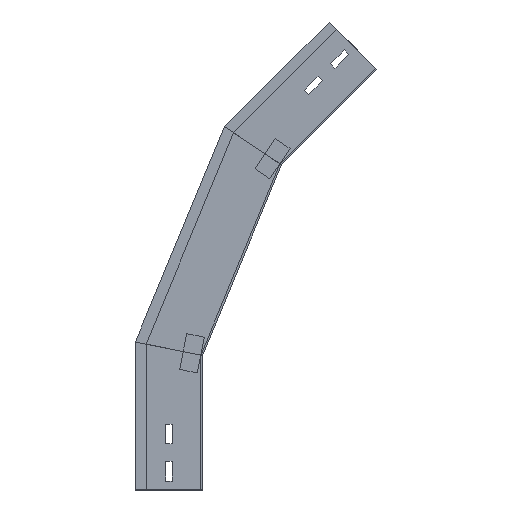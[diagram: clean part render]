
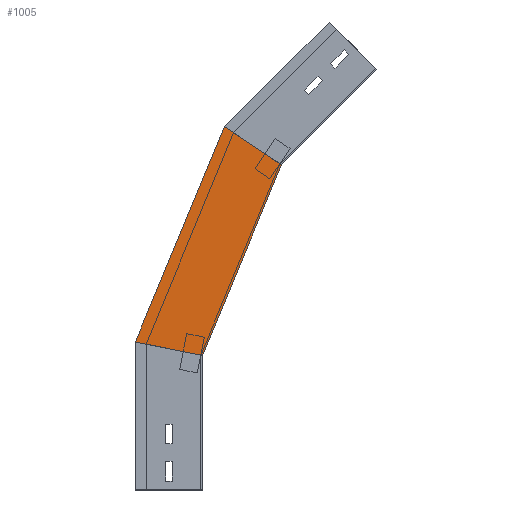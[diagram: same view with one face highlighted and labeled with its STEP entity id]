
A CAD part, left-side view. The second image highlights one B-rep face of the part: STEP entity #1005.
In plain terms, the highlighted planar face has unit normal (-1, 0, 0) as drawn and (1, 0, 0) by its records, which use the part's own axes.
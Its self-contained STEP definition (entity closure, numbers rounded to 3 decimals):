
#16 = LINE ( 'NONE', #579, #594 ) ;
#79 = DIRECTION ( 'NONE',  ( 0., -0.831, -0.556 ) ) ;
#100 = VERTEX_POINT ( 'NONE', #883 ) ;
#134 = DIRECTION ( 'NONE',  ( 1., 0., 0. ) ) ;
#208 = EDGE_CURVE ( 'NONE', #1341, #1061, #775, .T. ) ;
#327 = EDGE_CURVE ( 'NONE', #100, #1061, #492, .T. ) ;
#379 = DIRECTION ( 'NONE',  ( 0., 0., -1. ) ) ;
#424 = EDGE_CURVE ( 'NONE', #557, #100, #1490, .T. ) ;
#484 = CARTESIAN_POINT ( 'NONE',  ( 0., -88.017, 362.492 ) ) ;
#492 = LINE ( 'NONE', #952, #1312 ) ;
#527 = ORIENTED_EDGE ( 'NONE', *, *, #424, .T. ) ;
#534 = CARTESIAN_POINT ( 'NONE',  ( 0., 6.318, 134.746 ) ) ;
#557 = VERTEX_POINT ( 'NONE', #726 ) ;
#579 = CARTESIAN_POINT ( 'NONE',  ( 0., -28.701, 144.291 ) ) ;
#584 = DIRECTION ( 'NONE',  ( 0., -0.383, 0.924 ) ) ;
#594 = VECTOR ( 'NONE', #1059, 1000. ) ;
#625 = ORIENTED_EDGE ( 'NONE', *, *, #208, .F. ) ;
#654 = DIRECTION ( 'NONE',  ( 0., -0.383, 0.924 ) ) ;
#716 = CARTESIAN_POINT ( 'NONE',  ( 0., 6.318, 134.746 ) ) ;
#725 = PLANE ( 'NONE',  #982 ) ;
#726 = CARTESIAN_POINT ( 'NONE',  ( 0., 75., 164.918 ) ) ;
#775 = LINE ( 'NONE', #534, #1109 ) ;
#822 = ORIENTED_EDGE ( 'NONE', *, *, #1448, .F. ) ;
#883 = CARTESIAN_POINT ( 'NONE',  ( 0., -24.435, 404.976 ) ) ;
#914 = CARTESIAN_POINT ( 'NONE',  ( 0., 75.609, 163.448 ) ) ;
#952 = CARTESIAN_POINT ( 'NONE',  ( 0., -128.004, 335.774 ) ) ;
#982 = AXIS2_PLACEMENT_3D ( 'NONE', #716, #134, #379 ) ;
#988 = EDGE_LOOP ( 'NONE', ( #527, #1422, #625, #822 ) ) ;
#1005 = ADVANCED_FACE ( 'NONE', ( #1427 ), #725, .T. ) ;
#1059 = DIRECTION ( 'NONE',  ( 0., -0.981, -0.195 ) ) ;
#1061 = VERTEX_POINT ( 'NONE', #484 ) ;
#1109 = VECTOR ( 'NONE', #654, 1000. ) ;
#1152 = VECTOR ( 'NONE', #584, 1000. ) ;
#1263 = CARTESIAN_POINT ( 'NONE',  ( 0., 0., 150. ) ) ;
#1312 = VECTOR ( 'NONE', #79, 1000. ) ;
#1341 = VERTEX_POINT ( 'NONE', #1263 ) ;
#1422 = ORIENTED_EDGE ( 'NONE', *, *, #327, .T. ) ;
#1427 = FACE_OUTER_BOUND ( 'NONE', #988, .T. ) ;
#1448 = EDGE_CURVE ( 'NONE', #557, #1341, #16, .T. ) ;
#1490 = LINE ( 'NONE', #914, #1152 ) ;
